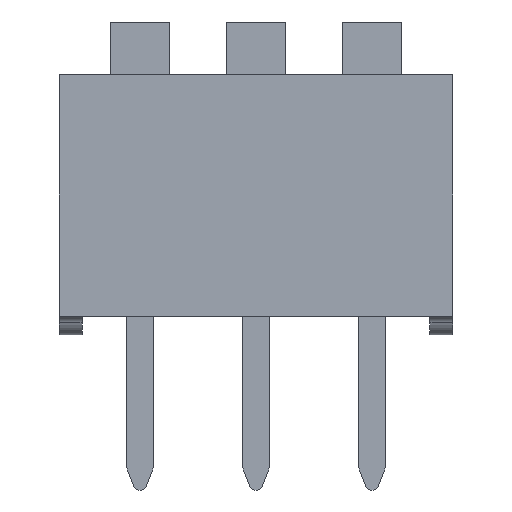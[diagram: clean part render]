
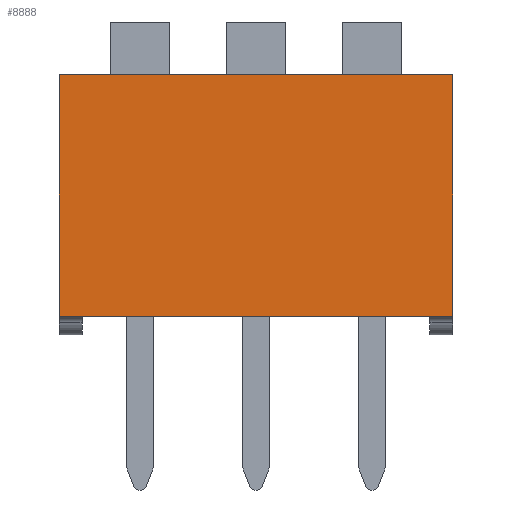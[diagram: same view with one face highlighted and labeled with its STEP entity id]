
A CAD part, front view. The second image highlights one B-rep face of the part: STEP entity #8888.
In plain terms, the highlighted planar face has unit normal (0, -1, 0).
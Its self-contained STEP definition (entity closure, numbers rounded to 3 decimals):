
#102 = PLANE('',#103);
#103 = AXIS2_PLACEMENT_3D('',#104,#105,#106);
#104 = CARTESIAN_POINT('',(-1.77,8.76,0.4));
#105 = DIRECTION('',(-1.,0.,0.));
#106 = DIRECTION('',(0.,-1.,0.));
#249 = VERTEX_POINT('',#250);
#250 = CARTESIAN_POINT('',(-1.77,-1.14,0.4));
#264 = PLANE('',#265);
#265 = AXIS2_PLACEMENT_3D('',#266,#267,#268);
#266 = CARTESIAN_POINT('',(2.54,3.81,0.4));
#267 = DIRECTION('',(0.,0.,1.));
#268 = DIRECTION('',(1.,0.,0.));
#276 = EDGE_CURVE('',#249,#277,#279,.T.);
#277 = VERTEX_POINT('',#278);
#278 = CARTESIAN_POINT('',(-1.77,-1.14,5.7));
#279 = SURFACE_CURVE('',#280,(#284,#291),.PCURVE_S1.);
#280 = LINE('',#281,#282);
#281 = CARTESIAN_POINT('',(-1.77,-1.14,0.4));
#282 = VECTOR('',#283,1.);
#283 = DIRECTION('',(0.,0.,1.));
#284 = PCURVE('',#102,#285);
#285 = DEFINITIONAL_REPRESENTATION('',(#286),#290);
#286 = LINE('',#287,#288);
#287 = CARTESIAN_POINT('',(9.9,0.));
#288 = VECTOR('',#289,1.);
#289 = DIRECTION('',(0.,1.));
#290 = ( GEOMETRIC_REPRESENTATION_CONTEXT(2) 
PARAMETRIC_REPRESENTATION_CONTEXT() REPRESENTATION_CONTEXT('2D SPACE',''
  ) );
#291 = PCURVE('',#292,#297);
#292 = PLANE('',#293);
#293 = AXIS2_PLACEMENT_3D('',#294,#295,#296);
#294 = CARTESIAN_POINT('',(-1.77,-1.14,0.4));
#295 = DIRECTION('',(0.,-1.,0.));
#296 = DIRECTION('',(1.,0.,0.));
#297 = DEFINITIONAL_REPRESENTATION('',(#298),#302);
#298 = LINE('',#299,#300);
#299 = CARTESIAN_POINT('',(0.,0.));
#300 = VECTOR('',#301,1.);
#301 = DIRECTION('',(0.,1.));
#302 = ( GEOMETRIC_REPRESENTATION_CONTEXT(2) 
PARAMETRIC_REPRESENTATION_CONTEXT() REPRESENTATION_CONTEXT('2D SPACE',''
  ) );
#320 = PLANE('',#321);
#321 = AXIS2_PLACEMENT_3D('',#322,#323,#324);
#322 = CARTESIAN_POINT('',(2.54,3.81,5.7));
#323 = DIRECTION('',(0.,0.,1.));
#324 = DIRECTION('',(1.,0.,0.));
#2064 = EDGE_CURVE('',#277,#2065,#2067,.T.);
#2065 = VERTEX_POINT('',#2066);
#2066 = CARTESIAN_POINT('',(6.85,-1.14,5.7));
#2067 = SURFACE_CURVE('',#2068,(#2072,#2079),.PCURVE_S1.);
#2068 = LINE('',#2069,#2070);
#2069 = CARTESIAN_POINT('',(6.85,-1.14,5.7));
#2070 = VECTOR('',#2071,1.);
#2071 = DIRECTION('',(1.,0.,0.));
#2072 = PCURVE('',#320,#2073);
#2073 = DEFINITIONAL_REPRESENTATION('',(#2074),#2078);
#2074 = LINE('',#2075,#2076);
#2075 = CARTESIAN_POINT('',(4.31,-4.95));
#2076 = VECTOR('',#2077,1.);
#2077 = DIRECTION('',(1.,0.));
#2078 = ( GEOMETRIC_REPRESENTATION_CONTEXT(2) 
PARAMETRIC_REPRESENTATION_CONTEXT() REPRESENTATION_CONTEXT('2D SPACE',''
  ) );
#2079 = PCURVE('',#292,#2080);
#2080 = DEFINITIONAL_REPRESENTATION('',(#2081),#2085);
#2081 = LINE('',#2082,#2083);
#2082 = CARTESIAN_POINT('',(8.62,5.3));
#2083 = VECTOR('',#2084,1.);
#2084 = DIRECTION('',(1.,0.));
#2085 = ( GEOMETRIC_REPRESENTATION_CONTEXT(2) 
PARAMETRIC_REPRESENTATION_CONTEXT() REPRESENTATION_CONTEXT('2D SPACE',''
  ) );
#2103 = PLANE('',#2104);
#2104 = AXIS2_PLACEMENT_3D('',#2105,#2106,#2107);
#2105 = CARTESIAN_POINT('',(6.85,-1.14,0.4));
#2106 = DIRECTION('',(1.,0.,0.));
#2107 = DIRECTION('',(0.,1.,0.));
#6402 = VERTEX_POINT('',#6403);
#6403 = CARTESIAN_POINT('',(6.85,-1.14,0.4));
#6424 = EDGE_CURVE('',#6402,#249,#6425,.T.);
#6425 = SURFACE_CURVE('',#6426,(#6430,#6437),.PCURVE_S1.);
#6426 = LINE('',#6427,#6428);
#6427 = CARTESIAN_POINT('',(6.85,-1.14,0.4));
#6428 = VECTOR('',#6429,1.);
#6429 = DIRECTION('',(-1.,0.,0.));
#6430 = PCURVE('',#264,#6431);
#6431 = DEFINITIONAL_REPRESENTATION('',(#6432),#6436);
#6432 = LINE('',#6433,#6434);
#6433 = CARTESIAN_POINT('',(4.31,-4.95));
#6434 = VECTOR('',#6435,1.);
#6435 = DIRECTION('',(-1.,0.));
#6436 = ( GEOMETRIC_REPRESENTATION_CONTEXT(2) 
PARAMETRIC_REPRESENTATION_CONTEXT() REPRESENTATION_CONTEXT('2D SPACE',''
  ) );
#6437 = PCURVE('',#292,#6438);
#6438 = DEFINITIONAL_REPRESENTATION('',(#6439),#6443);
#6439 = LINE('',#6440,#6441);
#6440 = CARTESIAN_POINT('',(8.62,0.));
#6441 = VECTOR('',#6442,1.);
#6442 = DIRECTION('',(-1.,0.));
#6443 = ( GEOMETRIC_REPRESENTATION_CONTEXT(2) 
PARAMETRIC_REPRESENTATION_CONTEXT() REPRESENTATION_CONTEXT('2D SPACE',''
  ) );
#8854 = EDGE_CURVE('',#6402,#2065,#8855,.T.);
#8855 = SURFACE_CURVE('',#8856,(#8860,#8867),.PCURVE_S1.);
#8856 = LINE('',#8857,#8858);
#8857 = CARTESIAN_POINT('',(6.85,-1.14,0.4));
#8858 = VECTOR('',#8859,1.);
#8859 = DIRECTION('',(0.,0.,1.));
#8860 = PCURVE('',#2103,#8861);
#8861 = DEFINITIONAL_REPRESENTATION('',(#8862),#8866);
#8862 = LINE('',#8863,#8864);
#8863 = CARTESIAN_POINT('',(0.,0.));
#8864 = VECTOR('',#8865,1.);
#8865 = DIRECTION('',(0.,1.));
#8866 = ( GEOMETRIC_REPRESENTATION_CONTEXT(2) 
PARAMETRIC_REPRESENTATION_CONTEXT() REPRESENTATION_CONTEXT('2D SPACE',''
  ) );
#8867 = PCURVE('',#292,#8868);
#8868 = DEFINITIONAL_REPRESENTATION('',(#8869),#8873);
#8869 = LINE('',#8870,#8871);
#8870 = CARTESIAN_POINT('',(8.62,0.));
#8871 = VECTOR('',#8872,1.);
#8872 = DIRECTION('',(0.,1.));
#8873 = ( GEOMETRIC_REPRESENTATION_CONTEXT(2) 
PARAMETRIC_REPRESENTATION_CONTEXT() REPRESENTATION_CONTEXT('2D SPACE',''
  ) );
#8888 = ADVANCED_FACE('',(#8889),#292,.T.);
#8889 = FACE_BOUND('',#8890,.T.);
#8890 = EDGE_LOOP('',(#8891,#8892,#8893,#8894));
#8891 = ORIENTED_EDGE('',*,*,#6424,.F.);
#8892 = ORIENTED_EDGE('',*,*,#8854,.T.);
#8893 = ORIENTED_EDGE('',*,*,#2064,.F.);
#8894 = ORIENTED_EDGE('',*,*,#276,.F.);
